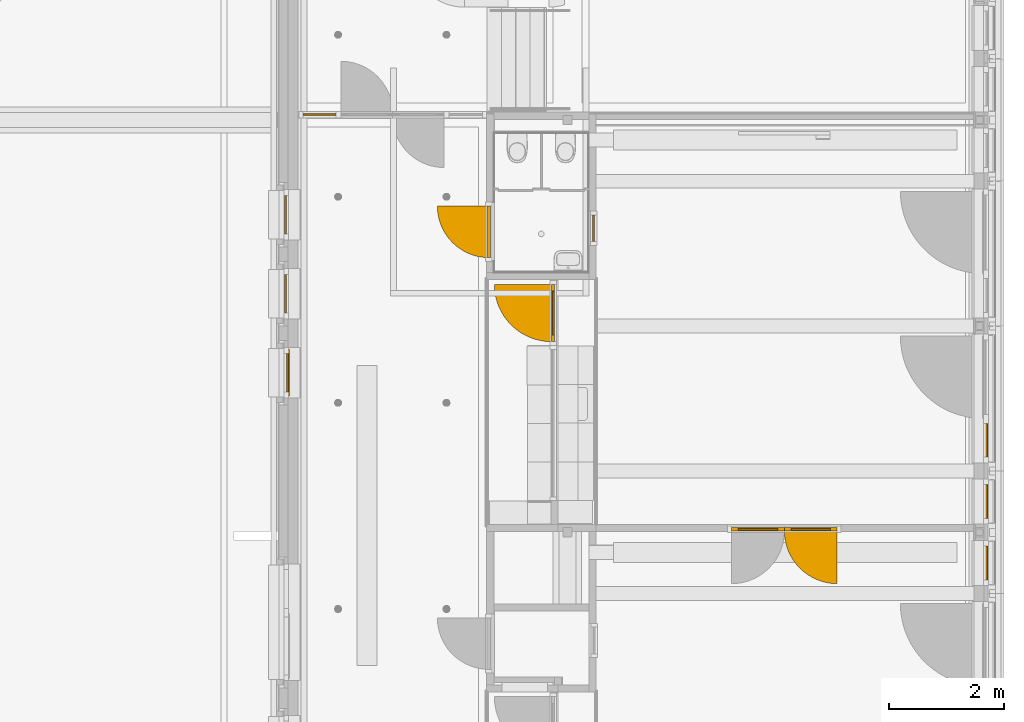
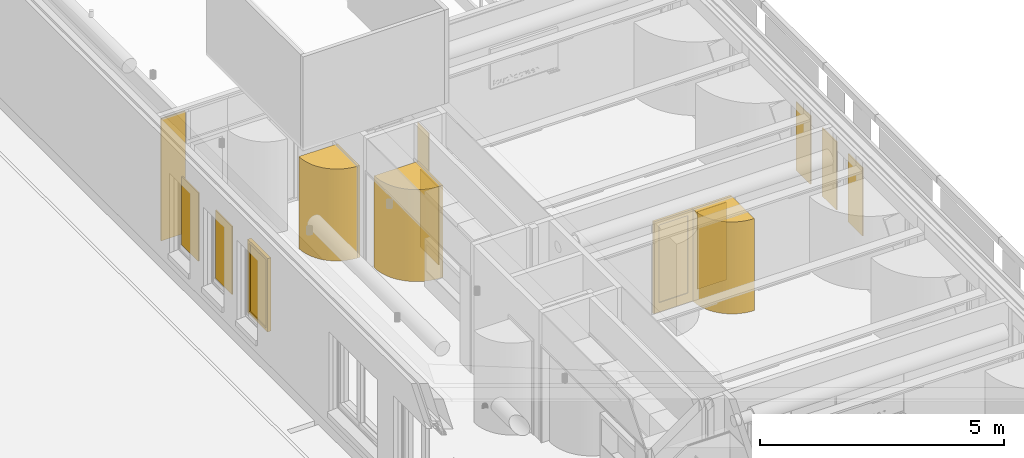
# One storey, part 65 of 128: 15 windows, 4 doors, 4 elements without a shape of their own.
"""IFC2X3 building model written with IfcOpenShell, lengths in millimetres."""

from ifc_helpers import new_model, entity, si_unit, converted_unit, derived_unit, direction, frame, frame_2d, origin, origin_2d_with_axis, place, context, subcontext, project, spatial, polyline, circle_curve, parameter, trimmed, segment, composite_curve, rectangle, circle, outline, extrude, source, transform, mapped, material, material_list, type_object, type_shapes, element, aggregate, save


model = new_model("IFC2X3")

# Units and contexts
model_context = context("Model", 3, precision=0.01, world=origin(), true_north=direction((6.123031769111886e-17, 1.0)))
body_context = subcontext(model_context, "Body", "Model", "MODEL_VIEW")
ifc_project = project(units=[si_unit("LENGTHUNIT", "METRE", prefix="MILLI"), si_unit("AREAUNIT", "SQUARE_METRE"), si_unit("VOLUMEUNIT", "CUBIC_METRE"), converted_unit("PLANEANGLEUNIT", "DEGREE", entity("IfcRatioMeasure", 0.017453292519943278), si_unit("PLANEANGLEUNIT", "RADIAN"), dimensions=[0, 0, 0, 0, 0, 0, 0]), si_unit("MASSUNIT", "GRAM", prefix="KILO"), derived_unit("MASSDENSITYUNIT", [(si_unit("MASSUNIT", "GRAM", prefix="KILO"), 1), (si_unit("LENGTHUNIT", "METRE"), -3)]), derived_unit("IONCONCENTRATIONUNIT", [(si_unit("MASSUNIT", "GRAM", prefix="KILO"), 1), (si_unit("LENGTHUNIT", "METRE"), -3)]), derived_unit("MOMENTOFINERTIAUNIT", [(si_unit("LENGTHUNIT", "METRE"), 4)]), si_unit("TIMEUNIT", "SECOND"), si_unit("FREQUENCYUNIT", "HERTZ"), si_unit("THERMODYNAMICTEMPERATUREUNIT", "DEGREE_CELSIUS"), derived_unit("THERMALTRANSMITTANCEUNIT", [(si_unit("MASSUNIT", "GRAM", prefix="KILO"), 1), (si_unit("THERMODYNAMICTEMPERATUREUNIT", "KELVIN"), -1), (si_unit("TIMEUNIT", "SECOND"), -3)]), derived_unit("THERMALCONDUCTANCEUNIT", [(si_unit("MASSUNIT", "GRAM", prefix="KILO"), 1), (si_unit("THERMODYNAMICTEMPERATUREUNIT", "KELVIN"), -1), (si_unit("TIMEUNIT", "SECOND"), -3), (si_unit("LENGTHUNIT", "METRE"), 1)]), derived_unit("VOLUMETRICFLOWRATEUNIT", [(si_unit("LENGTHUNIT", "METRE"), 3), (si_unit("TIMEUNIT", "SECOND"), -1)]), derived_unit("MASSFLOWRATEUNIT", [(si_unit("MASSUNIT", "GRAM", prefix="KILO"), 1), (si_unit("TIMEUNIT", "SECOND"), -1)]), derived_unit("ROTATIONALFREQUENCYUNIT", [(si_unit("TIMEUNIT", "SECOND"), -1)]), si_unit("ELECTRICCURRENTUNIT", "AMPERE"), si_unit("ELECTRICVOLTAGEUNIT", "VOLT"), si_unit("POWERUNIT", "WATT"), si_unit("FORCEUNIT", "NEWTON", prefix="KILO"), si_unit("ILLUMINANCEUNIT", "LUX"), si_unit("LUMINOUSFLUXUNIT", "LUMEN"), si_unit("LUMINOUSINTENSITYUNIT", "CANDELA"), derived_unit("USERDEFINED", [(si_unit("MASSUNIT", "GRAM", prefix="KILO"), -1), (si_unit("LENGTHUNIT", "METRE"), -2), (si_unit("TIMEUNIT", "SECOND"), 3), (si_unit("LUMINOUSFLUXUNIT", "LUMEN"), 1)]), derived_unit("USERDEFINED", [(si_unit("MASSUNIT", "GRAM", prefix="KILO"), 1), (si_unit("TIMEUNIT", "SECOND"), -3), (si_unit("LENGTHUNIT", "METRE"), 3), (si_unit("ELECTRICCURRENTUNIT", "AMPERE"), -2)]), derived_unit("SOUNDPOWERUNIT", [(si_unit("MASSUNIT", "GRAM", prefix="KILO"), 1), (si_unit("TIMEUNIT", "SECOND"), -3), (si_unit("LENGTHUNIT", "METRE"), 2)]), derived_unit("SOUNDPRESSUREUNIT", [(si_unit("MASSUNIT", "GRAM", prefix="KILO"), 1), (si_unit("LENGTHUNIT", "METRE"), -1), (si_unit("TIMEUNIT", "SECOND"), -2)]), derived_unit("LINEARVELOCITYUNIT", [(si_unit("LENGTHUNIT", "METRE"), 1), (si_unit("TIMEUNIT", "SECOND"), -1)]), si_unit("PRESSUREUNIT", "PASCAL"), derived_unit("USERDEFINED", [(si_unit("MASSUNIT", "GRAM", prefix="KILO"), 1), (si_unit("LENGTHUNIT", "METRE"), -2), (si_unit("TIMEUNIT", "SECOND"), -2)]), derived_unit("LINEARFORCEUNIT", [(si_unit("MASSUNIT", "GRAM", prefix="KILO"), 1), (si_unit("TIMEUNIT", "SECOND"), -2)]), derived_unit("PLANARFORCEUNIT", [(si_unit("MASSUNIT", "GRAM", prefix="KILO"), 1), (si_unit("LENGTHUNIT", "METRE"), -1), (si_unit("TIMEUNIT", "SECOND"), -2)]), derived_unit("SPECIFICHEATCAPACITYUNIT", [(si_unit("THERMODYNAMICTEMPERATUREUNIT", "KELVIN"), -1), (si_unit("LENGTHUNIT", "METRE"), 2), (si_unit("TIMEUNIT", "SECOND"), -2)]), derived_unit("HEATINGVALUEUNIT", [(si_unit("LENGTHUNIT", "METRE"), 2), (si_unit("TIMEUNIT", "SECOND"), -2)]), derived_unit("VAPORPERMEABILITYUNIT", [(si_unit("LENGTHUNIT", "METRE"), -1), (si_unit("TIMEUNIT", "SECOND"), 1)]), derived_unit("DYNAMICVISCOSITYUNIT", [(si_unit("MASSUNIT", "GRAM", prefix="KILO"), 1), (si_unit("TIMEUNIT", "SECOND"), -1), (si_unit("LENGTHUNIT", "METRE"), -1)]), derived_unit("THERMALEXPANSIONCOEFFICIENTUNIT", [(si_unit("THERMODYNAMICTEMPERATUREUNIT", "KELVIN"), -1)]), derived_unit("MODULUSOFELASTICITYUNIT", [(si_unit("MASSUNIT", "GRAM", prefix="KILO"), 1), (si_unit("LENGTHUNIT", "METRE"), -1), (si_unit("TIMEUNIT", "SECOND"), -2)]), derived_unit("ISOTHERMALMOISTURECAPACITYUNIT", [(si_unit("LENGTHUNIT", "METRE"), 3), (si_unit("MASSUNIT", "GRAM", prefix="KILO"), -1)]), derived_unit("MOISTUREDIFFUSIVITYUNIT", [(si_unit("TIMEUNIT", "SECOND"), -1), (si_unit("LENGTHUNIT", "METRE"), 2)])], contexts=[model_context])

# Site, building, storey
site_placement = place(None, frame((0.0, 300.0, 0.0)))
site = spatial("IfcSite", under=ifc_project, at=site_placement, Name="<Kadastrale nummers>", CompositionType="ELEMENT")
building_placement = place(site_placement, origin())
building = spatial("IfcBuilding", under=site, at=building_placement, CompositionType="ELEMENT")
storey_placement = place(building_placement, frame((0.0, 0.0, 3560.0000331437)))
storey = spatial("IfcBuildingStorey", under=building, at=storey_placement, Name="01 eerste verdieping", CompositionType="ELEMENT", Elevation=3560.0000331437)

# Curtain wall, door
curtain_wall_type_1 = type_object("IfcCurtainWallType", Name="Curtain Wall:Merk H01", PredefinedType="NOTDEFINED")
curtain_wall_1_placement = place(storey_placement, frame((0.0, 0.0, -3560.0000331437)))
curtain_wall_1 = element("IfcCurtainWall", 1, at=curtain_wall_1_placement, inside=storey, type_object=curtain_wall_type_1, Name="Curtain Wall:Merk H01", ObjectType="Curtain Wall:Merk H01")
ifc_material_1 = material(Name="ISR_Kunststof_wit")
ifc_material_2 = material(Name="ISR_Mass_Glazing")
ifc_material_list = material_list([ifc_material_1, ifc_material_2])
door_style_1 = type_object("IfcDoorStyle", Name="31_DO_Rondgat_deur:dichte_deur", ConstructionType="NOTDEFINED", OperationType="NOTDEFINED", ParameterTakesPrecedence=False, Sizeable=False, material=ifc_material_list)
shared_shape_1 = source(origin(), body_context, "Body", "SweptSolid", [
    extrude(outline(polyline([(-450.0, -1151.5000000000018), (450.0, -1151.5000000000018), (450.0, 1151.4999999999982), (-450.0, 1151.5000000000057), (-450.0, -1151.5000000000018)]), holes=[composite_curve([segment(trimmed(circle_curve(frame_2d((0.0, -448.5000000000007), x_axis=(1.0, 0.0)), 200.0), [parameter(179.99999999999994)], [parameter(359.9999999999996)], True, "PARAMETER"), False, "CONTINUOUS"), segment(trimmed(circle_curve(frame_2d((0.0, -448.5000000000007), x_axis=(1.0, 0.0)), 200.0), [parameter(4.0711099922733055e-13)], [parameter(179.99999999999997)], True, "PARAMETER"), False, "CONTINUOUS")], self_intersect=False)]), frame((0.0, 30.0, 1151.5000000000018), z_axis=(0.0, 1.0, 0.0), x_axis=(1.0, 0.0, 0.0)), (0.0, 0.0, 1.0), 26.999999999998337),
    extrude(outline(polyline([(-450.0, -1151.500000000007), (450.0, -1151.500000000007), (450.0, 1151.499999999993), (-450.0, 1151.5000000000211), (-450.0, -1151.500000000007)]), holes=[composite_curve([segment(trimmed(circle_curve(frame_2d((0.0, -448.49999999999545), x_axis=(1.0, 0.0)), 200.0), [parameter(179.99999999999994)], [parameter(359.9999999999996)], True, "PARAMETER"), False, "CONTINUOUS"), segment(trimmed(circle_curve(frame_2d((0.0, -448.49999999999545), x_axis=(1.0, 0.0)), 200.0), [parameter(4.0711099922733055e-13)], [parameter(179.99999999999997)], True, "PARAMETER"), False, "CONTINUOUS")], self_intersect=False)]), frame((0.0, 57.0, 1151.500000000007), z_axis=(0.0, 1.0, 0.0), x_axis=(1.0, 0.0, 0.0)), (0.0, 0.0, 1.0), 26.999999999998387),
    extrude(circle(Radius=200.0, at=frame_2d((0.0, -2.707167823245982e-13), x_axis=(1.0, 0.0))), frame((0.0, 41.319307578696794, 1600.0), z_axis=(0.0, 1.0, 0.0), x_axis=(-1.0, 0.0, 0.0)), (0.0, 0.0, 1.0), 25.1297239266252),
])
type_shapes(door_style_1, [shared_shape_1])
door_1_placement = place(curtain_wall_1_placement, frame((40084.0, 28945.997246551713, 3670.00003501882), z_axis=(0.0, 0.0, 1.0), x_axis=(0.0, 1.0, 0.0)))
door_1 = element("IfcDoor", 2, at=door_1_placement, type_object=door_style_1, material=ifc_material_list, Name="31_DO_Rondgat_deur:dichte_deur", ObjectType="31_DO_Rondgat_deur:dichte_deur", OverallHeight=2303.000000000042, OverallWidth=900.0000000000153, context=body_context, shape_type="MappedRepresentation", body=[
    mapped(shared_shape_1, transform((0.0, 0.0, 0.0), scale=1.0)),
])
aggregate(curtain_wall_1, [door_1])

# Window
ifc_material_3 = material(Name="Clearance Zones")
window_style_1 = type_object("IfcWindowStyle", Name="BU deur links:BU deur links", ConstructionType="NOTDEFINED", OperationType="NOTDEFINED", ParameterTakesPrecedence=False, Sizeable=False, material=ifc_material_3)
shared_shape_2 = source(origin(), body_context, "Body", "SweptSolid", [
    extrude(outline(composite_curve([segment(polyline([(-600.0, -300.0), (300.0, -300.0)]), True, "CONTINUOUS"), segment(polyline([(300.0, -300.0), (300.0, 600.0)]), True, "CONTINUOUS"), segment(trimmed(circle_curve(frame_2d((300.0, -300.0), x_axis=(1.0, 0.0)), 900.0000000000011), [parameter(90.00000000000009)], [parameter(179.99999999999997)], True, "PARAMETER"), True, "CONTINUOUS")], self_intersect=False)), frame((-150.0, -327.0, -20.0), z_axis=(0.0, 0.0, 1.0), x_axis=(-1.0, 0.0, 0.0)), (0.0, 0.0, 1.0), 2303.0000000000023),
])
type_shapes(window_style_1, [shared_shape_2])
window_1_placement = place(storey_placement, frame((40056.75000000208, 28945.99724655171, 130.00000187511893), z_axis=(0.0, 0.0, 1.0), x_axis=(0.0, -1.0, 0.0)))
element("IfcWindow", 3, at=window_1_placement, inside=storey, type_object=window_style_1, material=ifc_material_3, Name="BU deur links:BU deur links", ObjectType="BU deur links:BU deur links", OverallHeight=1183.999999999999, OverallWidth=900.0000000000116, context=body_context, shape_type="MappedRepresentation", body=[
    mapped(shared_shape_2, transform((0.0, 0.0, 0.0), scale=1.0)),
])

# Curtain wall, doors
curtain_wall_type_2 = type_object("IfcCurtainWallType", Name="Curtain Wall:Merk H07", PredefinedType="NOTDEFINED")
curtain_wall_2_placement = place(storey_placement, frame((0.0, 0.0, -3560.0000331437)))
curtain_wall_2 = element("IfcCurtainWall", 4, at=curtain_wall_2_placement, inside=storey, type_object=curtain_wall_type_2, Name="Curtain Wall:Merk H07", ObjectType="Curtain Wall:Merk H07")
ifc_material_4 = material(Name="HPL F7853 ocean gray")
door_style_2 = type_object("IfcDoorStyle", Name="31_DO_deur_met_stapeldorpel:deur_met_stapeldorpel", ConstructionType="NOTDEFINED", OperationType="NOTDEFINED", ParameterTakesPrecedence=False, Sizeable=False, material=ifc_material_4)
shared_shape_3 = source(origin(), body_context, "Body", "SweptSolid", [
    extrude(outline(polyline([(-461.4999999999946, -1151.4999999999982), (461.4999999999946, -1151.4999999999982), (461.4999999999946, 1151.4999999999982), (-461.4999999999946, 1151.4999999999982), (-461.4999999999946, -1151.4999999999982)]), holes=[polyline([(-341.4999999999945, 911.499999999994), (341.4999999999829, 911.4999999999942), (341.499999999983, -1031.4999999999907), (-341.4999999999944, -1031.499999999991), (-341.4999999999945, 911.499999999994)])]), frame((0.0, 84.0, 1151.5000000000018), z_axis=(0.0, -1.0, 0.0), x_axis=(-1.0, 0.0, 0.0)), (0.0, 0.0, 1.0), 26.999999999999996),
    extrude(outline(polyline([(-461.4999999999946, -1151.4999999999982), (461.4999999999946, -1151.4999999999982), (461.4999999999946, 1151.4999999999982), (-461.4999999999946, 1151.4999999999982), (-461.4999999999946, -1151.4999999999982)]), holes=[polyline([(-341.49999999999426, 911.4999999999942), (341.49999999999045, 911.4999999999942), (341.49999999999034, -1031.4999999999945), (-341.4999999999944, -1031.4999999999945), (-341.49999999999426, 911.4999999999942)])]), frame((0.0, 57.0, 1151.5000000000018), z_axis=(0.0, -1.0, 0.0), x_axis=(-1.0, 0.0, 0.0)), (0.0, 0.0, 1.0), 26.99999999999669),
])
type_shapes(door_style_2, [shared_shape_3])
door_2_placement = place(curtain_wall_2_placement, frame((44728.49999999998, 23808.998623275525, 3670.0000350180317), z_axis=(0.0, 0.0, 1.0), x_axis=(-1.0, 0.0, 0.0)))
door_2 = element("IfcDoor", 5, at=door_2_placement, type_object=door_style_2, material=ifc_material_4, Name="31_DO_deur_met_stapeldorpel:deur_met_stapeldorpel", ObjectType="31_DO_deur_met_stapeldorpel:deur_met_stapeldorpel", OverallHeight=2303.0000000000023, OverallWidth=923.0000000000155, context=body_context, shape_type="MappedRepresentation", body=[
    mapped(shared_shape_3, transform((0.0, 0.0, 0.0), scale=1.0)),
])
door_style_3 = type_object("IfcDoorStyle", Name="31_DO_deur_met_stapeldorpel:deur_met_stapeldorpel", ConstructionType="NOTDEFINED", OperationType="NOTDEFINED", ParameterTakesPrecedence=False, Sizeable=False, material=ifc_material_4)
shared_shape_4 = source(origin(), body_context, "Body", "SweptSolid", [
    extrude(outline(polyline([(-461.49999999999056, -1151.499999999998), (461.4999999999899, -1151.499999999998), (461.49999999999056, 1151.499999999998), (-461.4999999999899, 1151.4999999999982), (-461.49999999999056, -1151.499999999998)]), holes=[polyline([(-341.4999999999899, 911.4999999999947), (341.4999999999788, 911.4999999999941), (341.4999999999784, -1031.4999999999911), (-341.49999999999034, -1031.499999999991), (-341.4999999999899, 911.4999999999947)])]), frame((0.0, 84.0, 1151.5000000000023), z_axis=(0.0, -1.0, 0.0), x_axis=(-1.0, 0.0, 0.0)), (0.0, 0.0, 1.0), 26.999999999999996),
    extrude(outline(polyline([(-461.49999999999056, -1151.499999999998), (461.4999999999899, -1151.499999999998), (461.49999999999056, 1151.499999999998), (-461.4999999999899, 1151.4999999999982), (-461.49999999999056, -1151.499999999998)]), holes=[polyline([(-341.49999999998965, 911.4999999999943), (341.4999999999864, 911.4999999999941), (341.49999999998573, -1031.4999999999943), (-341.49999999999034, -1031.4999999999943), (-341.49999999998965, 911.4999999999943)])]), frame((0.0, 57.0, 1151.5000000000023), z_axis=(0.0, -1.0, 0.0), x_axis=(-1.0, 0.0, 0.0)), (0.0, 0.0, 1.0), 26.99999999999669),
])
type_shapes(door_style_3, [shared_shape_4])
door_3_placement = place(curtain_wall_2_placement, frame((45651.49999999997, 23808.99862327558, 3670.0000350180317), z_axis=(0.0, 0.0, 1.0), x_axis=(-1.0, 0.0, 0.0)))
door_3 = element("IfcDoor", 6, at=door_3_placement, type_object=door_style_3, material=ifc_material_4, Name="31_DO_deur_met_stapeldorpel:deur_met_stapeldorpel", ObjectType="31_DO_deur_met_stapeldorpel:deur_met_stapeldorpel", OverallHeight=2303.000000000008, OverallWidth=923.000000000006, context=body_context, shape_type="MappedRepresentation", body=[
    mapped(shared_shape_4, transform((0.0, 0.0, 0.0), scale=1.0)),
])
aggregate(curtain_wall_2, [door_2, door_3])

# Curtain wall, door
curtain_wall_type_3 = type_object("IfcCurtainWallType", Name="Curtain Wall:Merk H09", PredefinedType="NOTDEFINED")
curtain_wall_3_placement = place(storey_placement, frame((0.0, 0.0, -3560.0000331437)))
curtain_wall_3 = element("IfcCurtainWall", 7, at=curtain_wall_3_placement, inside=storey, type_object=curtain_wall_type_3, Name="Curtain Wall:Merk H09", ObjectType="Curtain Wall:Merk H09")
ifc_material_5 = material(Name="ISR_HPL Kleur hout")
door_style_4 = type_object("IfcDoorStyle", Name="31_DO_deur_met_stapeldorpel:deur_met_stapeldorpel", ConstructionType="NOTDEFINED", OperationType="NOTDEFINED", ParameterTakesPrecedence=False, Sizeable=False, material=ifc_material_5)
shared_shape_5 = source(origin(), body_context, "Body", "SweptSolid", [
    extrude(outline(polyline([(-500.0, -1151.4999999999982), (500.0, -1151.4999999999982), (500.0, 1151.4999999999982), (-500.0, 1151.4999999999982), (-500.0, -1151.4999999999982)]), holes=[polyline([(-380.0, 911.499999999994), (380.0, 911.4999999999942), (380.0, -1031.4999999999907), (-380.0, -1031.499999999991), (-380.0, 911.499999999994)])]), frame((0.0, 57.0, 1151.5000000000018), z_axis=(0.0, 1.0, 0.0), x_axis=(1.0, 0.0, 0.0)), (0.0, 0.0, 1.0), 26.999999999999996),
    extrude(outline(polyline([(-500.0, -1151.4999999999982), (500.0, -1151.4999999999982), (500.0, 1151.4999999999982), (-500.0, 1151.4999999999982), (-500.0, -1151.4999999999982)]), holes=[polyline([(-380.0, 911.4999999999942), (380.0, 911.4999999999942), (380.0, -1031.4999999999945), (-380.0, -1031.4999999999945), (-380.0, 911.4999999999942)])]), frame((0.0, 30.0, 1151.5000000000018), z_axis=(0.0, 1.0, 0.0), x_axis=(1.0, 0.0, 0.0)), (0.0, 0.0, 1.0), 26.99999999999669),
])
type_shapes(door_style_4, [shared_shape_5])
door_4_placement = place(curtain_wall_3_placement, frame((41209.0, 27527.998623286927, 3670.00003501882), z_axis=(0.0, 0.0, 1.0), x_axis=(0.0, 1.0, 0.0)))
door_4 = element("IfcDoor", 8, at=door_4_placement, type_object=door_style_4, material=ifc_material_5, Name="31_DO_deur_met_stapeldorpel:deur_met_stapeldorpel", ObjectType="31_DO_deur_met_stapeldorpel:deur_met_stapeldorpel", OverallHeight=2303.0000000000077, OverallWidth=1000.0000000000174, context=body_context, shape_type="MappedRepresentation", body=[
    mapped(shared_shape_5, transform((0.0, 0.0, 0.0), scale=1.0)),
])
aggregate(curtain_wall_3, [door_4])

# Windows
ifc_material_6 = material(Name="glas_enscape")
window_style_2 = type_object("IfcWindowStyle", Name="WI_subvak1:glas 4", ConstructionType="NOTDEFINED", OperationType="NOTDEFINED", ParameterTakesPrecedence=False, Sizeable=False, material=ifc_material_6)
shared_shape_6 = source(origin(), body_context, "Body", "SweptSolid", [
    extrude(rectangle(XDim=466.0000000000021, YDim=24.000000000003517, at=origin_2d_with_axis()), origin(), (0.0, 0.0, 1.0), 1055.9999999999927),
])
type_shapes(window_style_2, [shared_shape_6])
window_2_placement = place(storey_placement, frame((41858.0, 29009.998623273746, 1357.0), z_axis=(0.0, 0.0, 1.0), x_axis=(0.0, 1.0, 0.0)))
element("IfcWindow", 9, at=window_2_placement, inside=storey, type_object=window_style_2, material=ifc_material_6, Name="WI_subvak1:glas 4", ObjectType="WI_subvak1:glas 4", OverallHeight=609.9286498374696, OverallWidth=466.00000000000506, context=body_context, shape_type="MappedRepresentation", body=[
    mapped(shared_shape_6, transform((0.0, 0.0, 0.0), scale=1.0)),
])
window_style_3 = type_object("IfcWindowStyle", Name="WI_subvak1:glas 4", ConstructionType="NOTDEFINED", OperationType="NOTDEFINED", ParameterTakesPrecedence=False, Sizeable=False, material=ifc_material_6)
shared_shape_7 = source(origin(), body_context, "Body", "SweptSolid", [
    extrude(rectangle(XDim=24.000000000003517, YDim=574.2500000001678, at=origin_2d_with_axis()), frame((0.0, 0.0, 0.0), z_axis=(0.0, 0.0, 1.0), x_axis=(0.0, -1.0, 0.0)), (0.0, 0.0, 1.0), 3055.9999999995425),
])
type_shapes(window_style_3, [shared_shape_7])
window_3_placement = place(storey_placement, frame((37069.12500000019, 30993.0, 157.00000187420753)))
element("IfcWindow", 10, at=window_3_placement, inside=storey, type_object=window_style_3, material=ifc_material_6, Name="WI_subvak1:glas 4", ObjectType="WI_subvak1:glas 4", OverallHeight=609.9286498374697, OverallWidth=574.2500000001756, context=body_context, shape_type="MappedRepresentation", body=[
    mapped(shared_shape_7, transform((0.0, 0.0, 0.0), scale=1.0)),
])
window_style_4 = type_object("IfcWindowStyle", Name="WI_subvak1:glas 2", ConstructionType="NOTDEFINED", OperationType="NOTDEFINED", ParameterTakesPrecedence=False, Sizeable=False, material=ifc_material_6)
shared_shape_8 = source(origin(), body_context, "Body", "SweptSolid", [
    extrude(rectangle(XDim=24.000000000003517, YDim=759.9999999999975, at=frame_2d((0.0, -2.842170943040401e-14), x_axis=(1.0, 0.0))), frame((0.0, 0.0, 0.0), z_axis=(0.0, 0.0, 1.0), x_axis=(0.0, -1.0, 0.0)), (0.0, 0.0, 1.0), 1942.999999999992),
])
type_shapes(window_style_4, [shared_shape_8])
window_4_placement = place(storey_placement, frame((41152.0, 27527.99862328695, 350.00000187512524), z_axis=(0.0, 0.0, 1.0), x_axis=(0.0, 1.0, 0.0)))
element("IfcWindow", 11, at=window_4_placement, inside=storey, type_object=window_style_4, material=ifc_material_6, Name="WI_subvak1:glas 2", ObjectType="WI_subvak1:glas 2", OverallHeight=609.9286498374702, OverallWidth=760.0000000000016, context=body_context, shape_type="MappedRepresentation", body=[
    mapped(shared_shape_8, transform((0.0, 0.0, 0.0), scale=1.0)),
])
window_style_5 = type_object("IfcWindowStyle", Name="BU deur links:BU deur links", ConstructionType="NOTDEFINED", OperationType="NOTDEFINED", ParameterTakesPrecedence=False, Sizeable=False, material=ifc_material_3)
shared_shape_9 = source(origin(), body_context, "Body", "SweptSolid", [
    extrude(outline(composite_curve([segment(polyline([(-666.6666666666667, -333.33333333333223), (333.3333333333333, -333.33333333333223)]), True, "CONTINUOUS"), segment(polyline([(333.3333333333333, -333.33333333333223), (333.33333333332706, 666.6666666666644)]), True, "CONTINUOUS"), segment(trimmed(circle_curve(frame_2d((333.3333333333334, -333.33333333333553), x_axis=(1.0, 0.0)), 1000.0000000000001), [parameter(90.00000000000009)], [parameter(179.99999999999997)], True, "PARAMETER"), True, "CONTINUOUS")], self_intersect=False)), frame((-166.66666666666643, -360.3333333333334, -20.0), z_axis=(0.0, 0.0, 1.0), x_axis=(-1.0, 0.0, 0.0)), (0.0, 0.0, 1.0), 2303.0000000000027),
])
type_shapes(window_style_5, [shared_shape_9])
window_5_placement = place(storey_placement, frame((41152.0, 27527.998623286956, 130.00000187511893), z_axis=(0.0, 0.0, 1.0), x_axis=(0.0, -1.0, 0.0)))
element("IfcWindow", 12, at=window_5_placement, inside=storey, type_object=window_style_5, material=ifc_material_3, Name="BU deur links:BU deur links", ObjectType="BU deur links:BU deur links", OverallHeight=1284.0000000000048, OverallWidth=1000.0000000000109, context=body_context, shape_type="MappedRepresentation", body=[
    mapped(shared_shape_9, transform((0.0, 0.0, 0.0), scale=1.0)),
])
window_style_6 = type_object("IfcWindowStyle", Name="WI_subvak1:glas 2", ConstructionType="NOTDEFINED", OperationType="NOTDEFINED", ParameterTakesPrecedence=False, Sizeable=False, material=ifc_material_6)
shared_shape_10 = source(origin(), body_context, "Body", "SweptSolid", [
    extrude(rectangle(XDim=683.000000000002, YDim=24.000000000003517, at=frame_2d((0.0, -8.881784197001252e-16), x_axis=(1.0, 0.0))), origin(), (0.0, 0.0, 1.0), 1942.999999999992),
])
type_shapes(window_style_6, [shared_shape_10])
for number, where, name in (
    (13, (44728.49999999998, 23751.998623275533, 350.00000187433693), "WI_subvak1:glas 2"),
    (14, (45651.49999999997, 23751.998623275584, 350.00000187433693), "WI_subvak1:glas 2"),
):
    element("IfcWindow", number, at=place(storey_placement, frame(where)), inside=storey, type_object=window_style_6, material=ifc_material_6, Name=name, ObjectType="WI_subvak1:glas 2", OverallHeight=609.9286498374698, OverallWidth=683.000000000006, context=body_context, shape_type="MappedRepresentation", body=[
        mapped(shared_shape_10, transform((0.0, 0.0, 0.0), scale=1.0)),
    ])
window_style_7 = type_object("IfcWindowStyle", Name="BU deur links:BU deur links", ConstructionType="NOTDEFINED", OperationType="NOTDEFINED", ParameterTakesPrecedence=False, Sizeable=False, material=ifc_material_3)
shared_shape_11 = source(origin(), body_context, "Body", "SweptSolid", [
    extrude(outline(composite_curve([segment(trimmed(circle_curve(frame_2d((307.6666666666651, 307.6666666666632), x_axis=(1.0, 0.0)), 922.9999999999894), [parameter(180.00000000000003)], [parameter(269.9999999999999)], True, "PARAMETER"), True, "CONTINUOUS"), segment(polyline([(307.66666666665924, -615.3333333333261), (307.66666666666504, 307.6666666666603)]), True, "CONTINUOUS"), segment(polyline([(307.66666666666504, 307.6666666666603), (-615.3333333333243, 307.6666666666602)]), True, "CONTINUOUS")], self_intersect=False)), frame((-153.83333333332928, 334.6666666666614, -20.0), z_axis=(0.0, 0.0, 1.0), x_axis=(-1.0, 0.0, 0.0)), (0.0, 0.0, 1.0), 2303.000000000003),
])
type_shapes(window_style_7, [shared_shape_11])
window_6_placement = place(storey_placement, frame((45651.499999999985, 23751.998623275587, 130.00000187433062), z_axis=(0.0, 0.0, 1.0), x_axis=(-1.0, 0.0, 0.0)))
element("IfcWindow", 15, at=window_6_placement, inside=storey, type_object=window_style_7, material=ifc_material_3, Name="BU deur links:BU deur links", ObjectType="BU deur links:BU deur links", OverallHeight=1206.9999999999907, OverallWidth=923.0, context=body_context, shape_type="MappedRepresentation", body=[
    mapped(shared_shape_11, transform((0.0, 0.0, 0.0), scale=1.0)),
])
window_style_8 = type_object("IfcWindowStyle", Name="WI_subvak1:glas 4", ConstructionType="NOTDEFINED", OperationType="NOTDEFINED", ParameterTakesPrecedence=False, Sizeable=False, material=ifc_material_6)
shared_shape_12 = source(origin(), body_context, "Body", "SweptSolid", [
    extrude(rectangle(XDim=680.000000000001, YDim=24.00000000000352, at=origin_2d_with_axis()), origin(), (0.0, 0.0, 1.0), 1710.0000000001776),
])
type_shapes(window_style_8, [shared_shape_12])
for number, where, z_axis, x_axis, name in (
    (16, (36475.0, 27865.0, 1020.0), (0.0, 0.0, 1.0), (0.0, -1.0, 0.0), "WI_subvak1:glas 4"),
    (17, (36475.0, 29245.0, 1020.0), (0.0, 0.0, 1.0), (0.0, -1.0, 0.0), "WI_subvak1:glas 4"),
):
    element("IfcWindow", number, at=place(storey_placement, frame(where, z_axis=z_axis, x_axis=x_axis)), inside=storey, type_object=window_style_8, material=ifc_material_6, Name=name, ObjectType="WI_subvak1:glas 4", OverallHeight=609.9286498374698, OverallWidth=680.0000000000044, context=body_context, shape_type="MappedRepresentation", body=[
        mapped(shared_shape_12, transform((0.0, 0.0, 0.0), scale=1.0)),
    ])
window_style_9 = type_object("IfcWindowStyle", Name="WI_subvak1:glas 4", ConstructionType="NOTDEFINED", OperationType="NOTDEFINED", ParameterTakesPrecedence=False, Sizeable=False, material=ifc_material_6)
shared_shape_13 = source(origin(), body_context, "Body", "SweptSolid", [
    extrude(rectangle(XDim=590.000000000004, YDim=24.00000000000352, at=frame_2d((0.0, -1.7763568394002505e-15), x_axis=(1.0, 0.0))), origin(), (0.0, 0.0, 1.0), 1709.9999649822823),
])
type_shapes(window_style_9, [shared_shape_13])
for number, where, z_axis, x_axis, name in (
    (18, (48725.0, 24235.0, 1020.0), (0.0, 0.0, 1.0), (0.0, 1.0, 0.0), "WI_subvak1:glas 4"),
    (19, (48725.0, 23165.0, 1020.0), (0.0, 0.0, 1.0), (0.0, 1.0, 0.0), "WI_subvak1:glas 4"),
    (20, (48725.0, 25305.0, 1020.0), (0.0, 0.0, 1.0), (0.0, 1.0, 0.0), "WI_subvak1:glas 4"),
):
    element("IfcWindow", number, at=place(storey_placement, frame(where, z_axis=z_axis, x_axis=x_axis)), inside=storey, type_object=window_style_9, material=ifc_material_6, Name=name, ObjectType="WI_subvak1:glas 4", OverallHeight=609.9286498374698, OverallWidth=590.0000000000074, context=body_context, shape_type="MappedRepresentation", body=[
        mapped(shared_shape_13, transform((0.0, 0.0, 0.0), scale=1.0)),
    ])

# Curtain wall, window
curtain_wall_type_4 = type_object("IfcCurtainWallType", Name="Curtain Wall:K_31", PredefinedType="NOTDEFINED")
curtain_wall_4_placement = place(storey_placement, frame((0.0, 0.0, -3560.0000331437)))
curtain_wall_4 = element("IfcCurtainWall", 21, at=curtain_wall_4_placement, inside=storey, type_object=curtain_wall_type_4, Name="Curtain Wall:K_31", ObjectType="Curtain Wall:K_31")
ifc_material_7 = material(Name="ISR_Aluminium")
window_style_10 = type_object("IfcWindowStyle", Name="31_WI_raam_1:GEALAN KUBUS RAAM", ConstructionType="NOTDEFINED", OperationType="NOTDEFINED", ParameterTakesPrecedence=False, Sizeable=False, material=ifc_material_7)
shared_shape_14 = source(origin(), body_context, "Body", "SweptSolid", [
    extrude(outline(polyline([(-404.0, -919.0), (404.0, -919.0), (404.0, 919.0), (-404.0, 919.0), (-404.0, -919.0)]), holes=[polyline([(-340.0, 855.0), (340.0, 855.0), (340.0, -855.0), (-340.0, -855.0), (-340.0, 855.0)])]), frame((0.0, 63.0, 855.0), z_axis=(0.0, -1.0, 0.0), x_axis=(-1.0, 0.0, 0.0)), (0.0, 0.0, 1.0), 40.50000000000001),
    extrude(outline(polyline([(-404.0, -919.0), (404.0, -919.0), (404.0, 919.0), (-404.0, 919.0), (-404.0, -919.0)]), holes=[polyline([(-340.0, 855.0), (340.0, 855.0), (340.0, -855.0), (-340.0, -855.0), (-340.0, 855.0)])]), frame((0.0, 22.499999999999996, 855.0), z_axis=(0.0, -1.0, 0.0), x_axis=(-1.0, 0.0, 0.0)), (0.0, 0.0, 1.0), 40.5),
])
type_shapes(window_style_10, [shared_shape_14])
window_7_placement = place(curtain_wall_4_placement, frame((36532.0, 26485.0, 4580.0000331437), z_axis=(0.0, 0.0, 1.0), x_axis=(0.0, 1.0, 0.0)))
window_7 = element("IfcWindow", 22, at=window_7_placement, type_object=window_style_10, material=ifc_material_7, Name="31_WI_raam_1:GEALAN KUBUS RAAM", ObjectType="31_WI_raam_1:GEALAN KUBUS RAAM", OverallHeight=1853.9999999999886, OverallWidth=808.0000000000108, context=body_context, shape_type="MappedRepresentation", body=[
    mapped(shared_shape_14, transform((0.0, 0.0, 0.0), scale=1.0)),
])
aggregate(curtain_wall_4, [window_7])

# Window
window_style_11 = type_object("IfcWindowStyle", Name="WI_subvak:glas 2", ConstructionType="NOTDEFINED", OperationType="NOTDEFINED", ParameterTakesPrecedence=False, Sizeable=False, material=ifc_material_6)
shared_shape_15 = source(origin(), body_context, "Body", "SweptSolid", [
    extrude(rectangle(XDim=680.0000000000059, YDim=24.00000000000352, at=origin_2d_with_axis()), origin(), (0.0, 0.0, 1.0), 1709.999999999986),
])
type_shapes(window_style_11, [shared_shape_15])
window_8_placement = place(storey_placement, frame((36509.500000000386, 26485.0, 1020.0), z_axis=(0.0, 0.0, 1.0), x_axis=(0.0, -1.0, 0.0)))
element("IfcWindow", 23, at=window_8_placement, inside=storey, type_object=window_style_11, material=ifc_material_6, Name="WI_subvak:glas 2", ObjectType="WI_subvak:glas 2", OverallHeight=609.9286498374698, OverallWidth=680.0000000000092, context=body_context, shape_type="MappedRepresentation", body=[
    mapped(shared_shape_15, transform((0.0, 0.0, 0.0), scale=1.0)),
])

save(model, "model.ifc")
